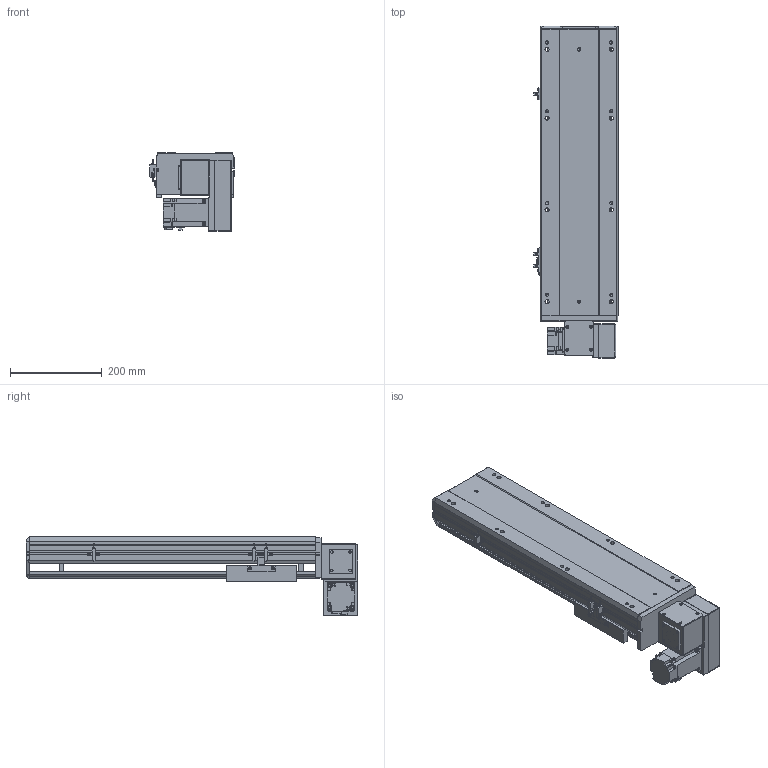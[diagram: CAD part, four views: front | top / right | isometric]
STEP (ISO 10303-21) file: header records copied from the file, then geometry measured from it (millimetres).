
FILE_DESCRIPTION (( 'STEP AP203' ), '1' );
FILE_NAME ('BTB17-L40-350-LU-M40-C4.STEP', '2022-07-20T06:01:16', ( 'CXY' ), ( 'BT' ), 'SwSTEP 2.0', 'SolidWorks 2016', '' );
FILE_SCHEMA (( 'CONFIG_CONTROL_DESIGN' ));
Length unit declared in the file: millimetre
Products named in the file (11): BTB17-L-06; M40; BTB17-L-23; BTB17-L-HZ; BTB17-L-24; FS-08-T40; BTB17-L40-350-LU-M40-C4; FS-07-T40(1); BTB17-L-04; BTB17-L-01; BTB17-L-菁釱_XD
Assembly tree (13 placements, depth 2):
  BTB17-L40-350-LU-M40-C4
    BTB17-L-菁釱_XD
    BTB17-L-01
    BTB17-L-04  x3
    BTB17-L-06
    BTB17-L-23  x2
    BTB17-L-24
    BTB17-L-HZ
    FS-07-T40(1)
    FS-08-T40
    M40
Bounding box: 183.7 x 723.5 x 171.5 mm (x, y, z)
Volume: 6447791.9 mm3; surface area: 979966.4 mm2
Topology: 22 solids, 22 shells, 1561 faces, 4119 edges, 2618 vertices
Faces by surface type: plane 901, cylinder 488, cone 140, torus 16, bspline 16
Entity records: 40450 total; most frequent: CARTESIAN_POINT 8002, DIRECTION 6553, ORIENTED_EDGE 6414, EDGE_CURVE 3207, AXIS2_PLACEMENT_3D 2191, VECTOR 2171, LINE 2171, VERTEX_POINT 2086
